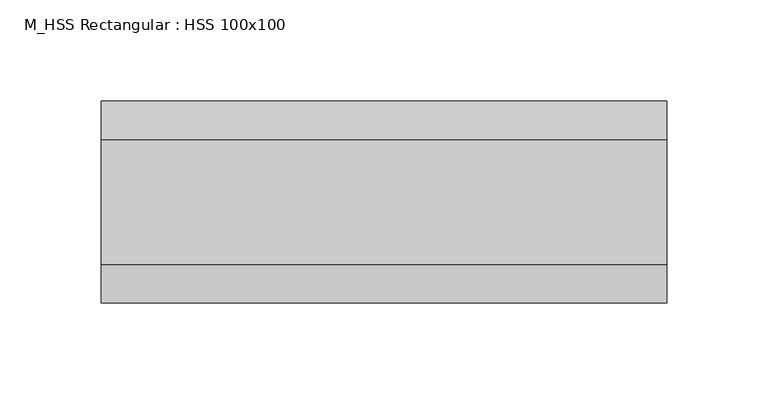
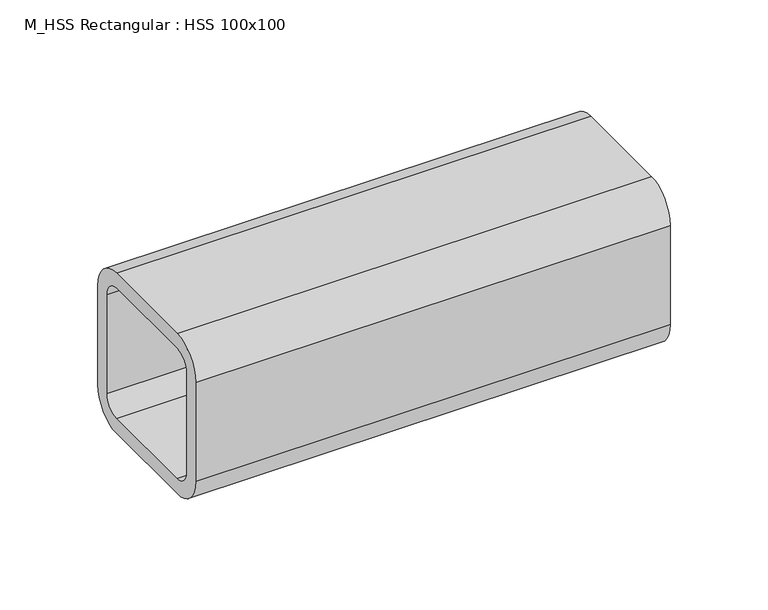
"""IFC4 building model written with IfcOpenShell, lengths in millimetres: beam geometry, M_HSS Rectangular : HSS 100x100."""

from ifc_helpers import new_model, si_unit, point, frame, frame_2d, origin, place, context, project, spatial, polyline, circle_curve, trimmed, segment, composite_curve, outline, extrude, source, transform, mapped, element, save


def m_hss_rectangular_hss_100x100_561cff20(model_context):
    return source(origin(), model_context, "Body", "SweptSolid", [
        extrude(outline(composite_curve([segment(polyline([(50.0, 30.94), (50.0, -30.94)]), True, "CONTINUOUS"), segment(trimmed(circle_curve(frame_2d((30.94, -30.94)), 19.06), [point((50.0, -30.94))], [point((30.94, -50.0))], False, "CARTESIAN"), True, "CONTINUOUS"), segment(polyline([(30.94, -50.0), (-30.94, -50.0)]), True, "CONTINUOUS"), segment(trimmed(circle_curve(frame_2d((-30.94, -30.94)), 19.06), [point((-30.94, -50.0))], [point((-50.0, -30.94))], False, "CARTESIAN"), True, "CONTINUOUS"), segment(polyline([(-50.0, -30.94), (-50.0, 30.94)]), True, "CONTINUOUS"), segment(trimmed(circle_curve(frame_2d((-30.94, 30.94)), 19.06), [point((-50.0, 30.94))], [point((-30.94, 50.0))], False, "CARTESIAN"), True, "CONTINUOUS"), segment(polyline([(-30.94, 50.0), (30.94, 50.0)]), True, "CONTINUOUS"), segment(trimmed(circle_curve(frame_2d((30.94, 30.94)), 19.06), [point((30.94, 50.0))], [point((50.0, 30.94))], False, "CARTESIAN"), True, "CONTINUOUS")], self_intersect=False), holes=[composite_curve([segment(trimmed(circle_curve(frame_2d((-30.94, 30.94)), 9.53), [point((-30.94, 40.47))], [point((-40.47, 30.94))], True, "CARTESIAN"), True, "CONTINUOUS"), segment(polyline([(-40.47, 30.94), (-40.47, -30.94)]), True, "CONTINUOUS"), segment(trimmed(circle_curve(frame_2d((-30.94, -30.94)), 9.53), [point((-40.47, -30.94))], [point((-30.94, -40.47))], True, "CARTESIAN"), True, "CONTINUOUS"), segment(polyline([(-30.94, -40.47), (30.94, -40.47)]), True, "CONTINUOUS"), segment(trimmed(circle_curve(frame_2d((30.94, -30.94)), 9.53), [point((30.94, -40.47))], [point((40.47, -30.94))], True, "CARTESIAN"), True, "CONTINUOUS"), segment(polyline([(40.47, -30.94), (40.47, 30.94)]), True, "CONTINUOUS"), segment(trimmed(circle_curve(frame_2d((30.94, 30.94)), 9.53), [point((40.47, 30.94))], [point((30.94, 40.47))], True, "CARTESIAN"), True, "CONTINUOUS"), segment(polyline([(30.94, 40.47), (-30.94, 40.47)]), True, "CONTINUOUS")], self_intersect=False)]), frame((-139.95, 0.0, 0.0), z_axis=(1.0, 0.0, 0.0), x_axis=(0.0, 1.0, 0.0)), (0.0, 0.0, 1.0), 279.9),
    ])


if __name__ == "__main__":
    model = new_model("IFC4")
    model_context = context("Model", 3, world=origin())
    ifc_project = project(units=[si_unit("LENGTHUNIT", "METRE", prefix="MILLI")], contexts=[model_context])
    site = spatial("IfcSite", under=ifc_project)
    building = spatial("IfcBuilding", under=site)
    placement = place(None, origin())
    m_hss_rectangular_hss_100x100_shape = m_hss_rectangular_hss_100x100_561cff20(model_context)
    element("IfcBeam", 1, ObjectType="M_HSS Rectangular : HSS 100x100", at=placement, inside=building, context=model_context, shape_type="MappedRepresentation", body=[
        mapped(m_hss_rectangular_hss_100x100_shape, transform((0.0, 0.0, 0.0), x_axis=(1.0, 0.0, 0.0), y_axis=(0.0, 1.0, 0.0), z_axis=(0.0, 0.0, 1.0))),
    ])
    save(model, "model.ifc")
